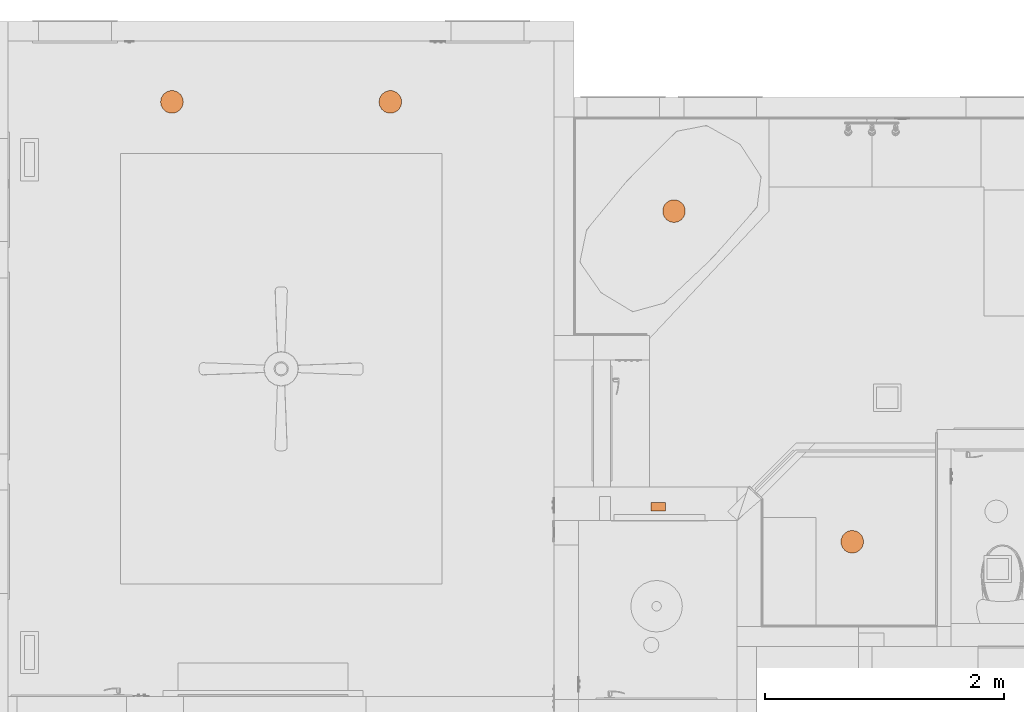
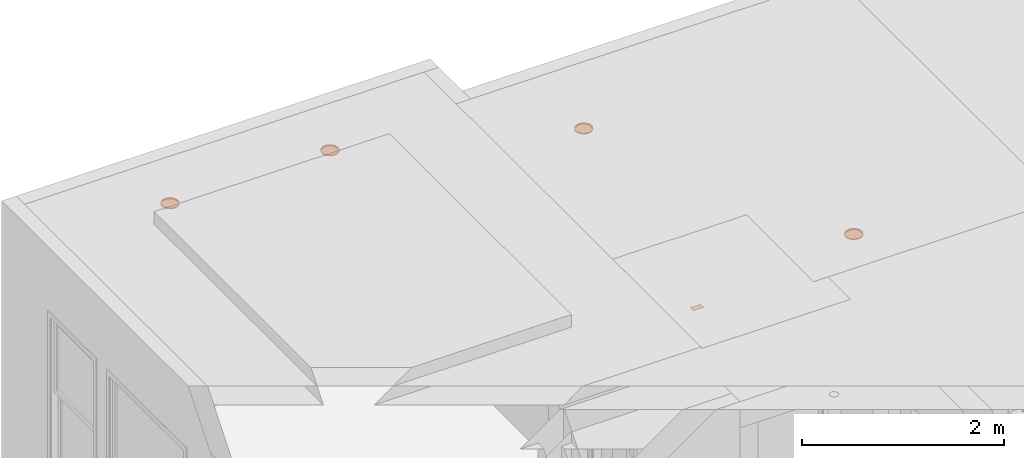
# One storey, part 74 of 103: 5 proxies.
"""IFC2X3 building model written with IfcOpenShell, lengths in inches."""

from ifc_helpers import new_model, entity, si_unit, converted_unit, derived_unit, money_unit, direction, frame, origin_with_axes, place, context, subcontext, project, spatial, open_shell, faceted_brep, surface_model, source, transform, mapped, material, type_object, element, save


model = new_model("IFC2X3")

# Units and contexts
model_context = context("Model", 3, precision=0.00039370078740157, world=origin_with_axes(), true_north=direction((0.0, 1.0)))
plan_context = context("Plan", 3, precision=0.00039370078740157, world=origin_with_axes(), true_north=direction((0.0, 1.0)))
body_context = subcontext(model_context, "Body", "Model", "MODEL_VIEW")
ifc_project = project(units=[converted_unit("LENGTHUNIT", "INCH", entity("IfcPositiveLengthMeasure", 0.0254), si_unit("LENGTHUNIT", "METRE"), dimensions=[1, 0, 0, 0, 0, 0, 0]), converted_unit("AREAUNIT", "SQUARE_FOOT", entity("IfcPositiveLengthMeasure", 0.09290304), si_unit("AREAUNIT", "SQUARE_METRE"), dimensions=[2, 0, 0, 0, 0, 0, 0]), si_unit("PLANEANGLEUNIT", "RADIAN"), si_unit("SOLIDANGLEUNIT", "STERADIAN"), money_unit("USD"), converted_unit("TIMEUNIT", "Year", entity("IfcTimeMeasure", 31557600.0), si_unit("TIMEUNIT", "SECOND"), dimensions=[0, 0, 1, 0, 0, 0, 0]), si_unit("MASSUNIT", "GRAM", prefix="KILO"), si_unit("THERMODYNAMICTEMPERATUREUNIT", "DEGREE_CELSIUS"), si_unit("LUMINOUSINTENSITYUNIT", "LUMEN"), si_unit("ENERGYUNIT", "JOULE", prefix="MEGA"), derived_unit("SPECIFICHEATCAPACITYUNIT", [(si_unit("ENERGYUNIT", "JOULE"), 1), (si_unit("MASSUNIT", "GRAM", prefix="KILO"), -1), (si_unit("THERMODYNAMICTEMPERATUREUNIT", "KELVIN"), -1)])], contexts=[model_context, plan_context])

# Site, building, storey
site_placement = place(None, origin_with_axes())
site = spatial("IfcSite", under=ifc_project, at=site_placement, Name="Site", CompositionType="ELEMENT")
building_placement = place(site_placement, origin_with_axes())
building = spatial("IfcBuilding", under=site, at=building_placement, Name="Building", CompositionType="ELEMENT")
storey_placement = place(building_placement, frame((0.0, 0.0, 127.9999999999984), z_axis=(0.0, 0.0, 1.0), x_axis=(1.0, 0.0, 0.0)))
storey = spatial("IfcBuildingStorey", under=building, at=storey_placement, Name="Second Floor", CompositionType="ELEMENT", Elevation=128.0)

# Proxies
building_element_proxy_type_1 = type_object("IfcBuildingElementProxyType", Name="Recessed Spot", PredefinedType="NOTDEFINED")
shared_shape_1 = source(origin_with_axes(), body_context, "Body", "SurfaceModel", [
    faceted_brep([(3.749999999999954, 0.0, -0.4999999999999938), (3.523847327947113, 1.282575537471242, -0.4999999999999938), (3.523847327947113, 1.282575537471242, 0.0), (3.749999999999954, 0.0, 0.0), (3.523847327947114, -1.282575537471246, -0.4999999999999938), (2.872666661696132, -2.410453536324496, -0.4999999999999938), (1.874999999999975, -3.247595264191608, -0.4999999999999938), (0.6511806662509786, -3.693029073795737, -0.4999999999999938), (-0.6511806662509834, -3.693029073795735, -0.4999999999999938), (-1.87499999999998, -3.247595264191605, -0.4999999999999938), (-2.872666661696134, -2.410453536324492, -0.4999999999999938), (-3.523847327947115, -1.282575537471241, -0.4999999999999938), (-3.749999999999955, 0.0, -0.4999999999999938), (-3.523847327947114, 1.282575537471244, -0.4999999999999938), (-2.872666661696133, 2.410453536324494, -0.4999999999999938), (-1.874999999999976, 3.247595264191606, -0.4999999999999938), (-0.6511806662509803, 3.693029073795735, -0.4999999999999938), (0.6511806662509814, 3.693029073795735, -0.4999999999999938), (1.874999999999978, 3.247595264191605, -0.4999999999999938), (2.872666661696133, 2.410453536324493, -0.4999999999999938), (3.24999999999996, 0.0, -0.4999999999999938), (3.054001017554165, 1.11156546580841, -0.4999999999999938), (2.489644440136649, 2.089059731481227, -0.4999999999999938), (1.62499999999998, 2.814582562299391, -0.4999999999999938), (0.5643565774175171, 3.200625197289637, -0.4999999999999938), (-0.5643565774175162, 3.200625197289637, -0.4999999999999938), (-1.62499999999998, 2.814582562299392, -0.4999999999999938), (-2.489644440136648, 2.089059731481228, -0.4999999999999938), (-3.054001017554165, 1.111565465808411, -0.4999999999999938), (-3.24999999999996, 0.0, -0.4999999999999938), (-3.054001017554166, -1.111565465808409, -0.4999999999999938), (-2.48964444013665, -2.089059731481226, -0.4999999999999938), (-1.624999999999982, -2.814582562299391, -0.4999999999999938), (-0.5643565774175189, -3.200625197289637, -0.4999999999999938), (0.5643565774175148, -3.200625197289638, -0.4999999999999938), (1.624999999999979, -2.814582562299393, -0.4999999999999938), (2.489644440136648, -2.08905973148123, -0.4999999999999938), (3.054001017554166, -1.111565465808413, -0.4999999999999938), (2.872666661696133, 2.410453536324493, 0.0), (1.874999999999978, 3.247595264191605, 0.0), (0.6511806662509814, 3.693029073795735, 0.0), (-0.6511806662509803, 3.693029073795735, 0.0), (-1.874999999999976, 3.247595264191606, 0.0), (-2.872666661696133, 2.410453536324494, 0.0), (-3.523847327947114, 1.282575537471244, 0.0), (-3.749999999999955, 0.0, 0.0), (-3.523847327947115, -1.282575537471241, 0.0), (-2.872666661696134, -2.410453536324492, 0.0), (-1.87499999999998, -3.247595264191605, 0.0), (-0.6511806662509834, -3.693029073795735, 0.0), (0.6511806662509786, -3.693029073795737, 0.0), (1.874999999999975, -3.247595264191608, 0.0), (2.872666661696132, -2.410453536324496, 0.0), (3.523847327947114, -1.282575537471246, 0.0), (3.24999999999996, 0.0, 0.0), (3.054001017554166, -1.111565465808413, 0.0), (2.489644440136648, -2.08905973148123, 0.0), (1.624999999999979, -2.814582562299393, 0.0), (0.5643565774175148, -3.200625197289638, 0.0), (-0.5643565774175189, -3.200625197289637, 0.0), (-1.624999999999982, -2.814582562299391, 0.0), (-2.48964444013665, -2.089059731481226, 0.0), (-3.054001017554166, -1.111565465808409, 0.0), (-3.24999999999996, 0.0, 0.0), (-3.054001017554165, 1.111565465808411, 0.0), (-2.489644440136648, 2.089059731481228, 0.0), (-1.62499999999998, 2.814582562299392, 0.0), (-0.5643565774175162, 3.200625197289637, 0.0), (0.5643565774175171, 3.200625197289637, 0.0), (1.62499999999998, 2.814582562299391, 0.0), (2.489644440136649, 2.089059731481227, 0.0), (3.054001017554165, 1.11156546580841, 0.0)], [[[0, 1, 2, 3]], [[0, 4, 5, 6, 7, 8, 9, 10, 11, 12, 13, 14, 15, 16, 17, 18, 19, 1], [20, 21, 22, 23, 24, 25, 26, 27, 28, 29, 30, 31, 32, 33, 34, 35, 36, 37]], [[1, 19, 38, 2]], [[3, 2, 38, 39, 40, 41, 42, 43, 44, 45, 46, 47, 48, 49, 50, 51, 52, 53], [54, 55, 56, 57, 58, 59, 60, 61, 62, 63, 64, 65, 66, 67, 68, 69, 70, 71]], [[4, 0, 3, 53]], [[5, 4, 53, 52]], [[6, 5, 52, 51]], [[7, 6, 51, 50]], [[8, 7, 50, 49]], [[9, 8, 49, 48]], [[10, 9, 48, 47]], [[11, 10, 47, 46]], [[12, 11, 46, 45]], [[13, 12, 45, 44]], [[14, 13, 44, 43]], [[15, 14, 43, 42]], [[16, 15, 42, 41]], [[17, 16, 41, 40]], [[18, 17, 40, 39]], [[19, 18, 39, 38]], [[21, 20, 54, 71]], [[22, 21, 71, 70]], [[23, 22, 70, 69]], [[24, 23, 69, 68]], [[25, 24, 68, 67]], [[26, 25, 67, 66]], [[27, 26, 66, 65]], [[28, 27, 65, 64]], [[29, 28, 64, 63]], [[30, 29, 63, 62]], [[31, 30, 62, 61]], [[32, 31, 61, 60]], [[33, 32, 60, 59]], [[34, 33, 59, 58]], [[35, 34, 58, 57]], [[36, 35, 57, 56]], [[37, 36, 56, 55]], [[20, 37, 55, 54]]]),
    surface_model("IfcShellBasedSurfaceModel", [(3.24999999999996, 0.0, -0.4460629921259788), (3.054001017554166, -1.111565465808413, -0.4460629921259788), (2.489644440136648, -2.08905973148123, -0.4460629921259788), (1.624999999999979, -2.814582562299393, -0.4460629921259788), (0.5643565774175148, -3.200625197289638, -0.4460629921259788), (-0.5643565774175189, -3.200625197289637, -0.4460629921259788), (-1.624999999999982, -2.814582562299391, -0.4460629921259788), (-2.48964444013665, -2.089059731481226, -0.4460629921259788), (-3.054001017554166, -1.111565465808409, -0.4460629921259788), (-3.24999999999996, 0.0, -0.4460629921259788), (-3.054001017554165, 1.111565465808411, -0.4460629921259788), (-2.489644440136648, 2.089059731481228, -0.4460629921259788), (-1.62499999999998, 2.814582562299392, -0.4460629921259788), (-0.5643565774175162, 3.200625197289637, -0.4460629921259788), (0.5643565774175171, 3.200625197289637, -0.4460629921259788), (1.62499999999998, 2.814582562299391, -0.4460629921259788), (2.489644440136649, 2.089059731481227, -0.4460629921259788), (3.054001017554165, 1.11156546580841, -0.4460629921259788)], [open_shell([[[0, 1, 2, 3, 4, 5, 6, 7, 8, 9, 10, 11, 12, 13, 14, 15, 16, 17]]])]),
])
for number, where, z_axis, x_axis, name in (
    (1, (-36.25001503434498, 539.00122114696, 119.4999999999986), (0.0, 0.0, 1.0), (-9.406550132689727e-08, 0.9999999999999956, 0.0), "L-03"),
    (2, (22.49999521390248, 430.0009030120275, 114.7499999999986), (0.0, 0.0, 1.0), (-9.406550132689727e-08, 0.9999999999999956, 0.0), "L-03"),
):
    element("IfcBuildingElementProxy", number, at=place(storey_placement, frame(where, z_axis=z_axis, x_axis=x_axis)), inside=storey, type_object=building_element_proxy_type_1, Name=name, context=body_context, shape_type="MappedRepresentation", body=[
        mapped(shared_shape_1, transform((0.0, 0.0, 0.0))),
    ])
ifc_material = material(Name="Color - White")
building_element_proxy_type_2 = type_object("IfcBuildingElementProxyType", Name="Color - White", PredefinedType="NOTDEFINED")
shared_shape_2 = source(origin_with_axes(), body_context, "Body", "Brep", [
    faceted_brep([(39.622047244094, -412.3783872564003, 95.86220472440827), (39.622047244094, -412.3783872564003, 95.9999999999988), (39.622047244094, -407.6539778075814, 95.9999999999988), (39.622047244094, -407.6539778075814, 95.86220472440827), (42.37795275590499, -412.3783872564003, 95.86220472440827), (42.37795275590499, -412.3783872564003, 95.9999999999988), (40.72440944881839, -410.4886234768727, 95.9999999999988), (40.60629921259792, -410.4886234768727, 95.9999999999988), (40.60629921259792, -409.5437415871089, 95.9999999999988), (40.72440944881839, -409.5437415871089, 95.9999999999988), (42.37795275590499, -407.6539778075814, 95.9999999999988), (42.37795275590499, -407.6539778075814, 95.86220472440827), (40.60629921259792, -409.5437415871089, 95.86220472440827), (40.60629921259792, -410.4886234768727, 95.86220472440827), (41.39370078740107, -410.4886234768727, 95.86220472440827), (41.39370078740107, -409.5437415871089, 95.86220472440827), (41.2755905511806, -410.4886234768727, 95.9999999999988), (40.9999999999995, -410.0161825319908, 95.9999999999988), (41.39370078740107, -410.4886234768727, 95.9999999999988), (41.39370078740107, -409.5437415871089, 95.9999999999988), (41.2755905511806, -409.5437415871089, 95.9999999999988), (40.60629921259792, -409.5437415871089, 95.81791338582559), (40.60629921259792, -410.4886234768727, 95.81791338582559), (41.39370078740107, -410.4886234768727, 95.81791338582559), (41.39370078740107, -409.5437415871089, 95.81791338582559)], [[[0, 1, 2, 3]], [[1, 0, 4, 5]], [[1, 6, 7, 8, 9, 2]], [[3, 2, 10, 11]], [[0, 3, 11, 4], [12, 13, 14, 15]], [[5, 4, 11, 10]], [[6, 1, 5, 16]], [[17, 7, 6, 16, 18]], [[8, 7, 17]], [[8, 17, 19, 20, 9]], [[2, 9, 20, 10]], [[21, 22, 13, 12]], [[13, 22, 23, 14]], [[14, 23, 24, 15]], [[21, 12, 15, 24]], [[19, 18, 16, 5, 10, 20]], [[17, 18, 19]], [[22, 21, 24, 23]]]),
])
proxy_placement = place(storey_placement, frame((-451.5133530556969, 400.5029527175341, -1.0), z_axis=(0.0, 0.0, 1.0), x_axis=(0.0, 1.0, 0.0)))
element("IfcBuildingElementProxy", 3, at=proxy_placement, inside=storey, type_object=building_element_proxy_type_2, material=ifc_material, Name="OBJ-03", context=body_context, shape_type="MappedRepresentation", body=[
    mapped(shared_shape_2, transform((0.0, 0.0, 0.0))),
])
shared_shape_3 = source(origin_with_axes(), body_context, "Body", "SurfaceModel", [
    faceted_brep([(3.749999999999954, 0.0, -0.4999999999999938), (3.523847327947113, 1.282575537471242, -0.4999999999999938), (3.523847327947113, 1.282575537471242, 0.0), (3.749999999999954, 0.0, 0.0), (3.523847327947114, -1.282575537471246, -0.4999999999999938), (2.872666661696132, -2.410453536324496, -0.4999999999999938), (1.874999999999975, -3.247595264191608, -0.4999999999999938), (0.6511806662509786, -3.693029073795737, -0.4999999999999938), (-0.6511806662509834, -3.693029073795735, -0.4999999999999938), (-1.87499999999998, -3.247595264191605, -0.4999999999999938), (-2.872666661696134, -2.410453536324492, -0.4999999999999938), (-3.523847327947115, -1.282575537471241, -0.4999999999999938), (-3.749999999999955, 0.0, -0.4999999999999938), (-3.523847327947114, 1.282575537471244, -0.4999999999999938), (-2.872666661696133, 2.410453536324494, -0.4999999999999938), (-1.874999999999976, 3.247595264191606, -0.4999999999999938), (-0.6511806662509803, 3.693029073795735, -0.4999999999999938), (0.6511806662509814, 3.693029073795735, -0.4999999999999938), (1.874999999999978, 3.247595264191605, -0.4999999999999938), (2.872666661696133, 2.410453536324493, -0.4999999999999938), (3.24999999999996, 0.0, -0.4999999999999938), (3.054001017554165, 1.11156546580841, -0.4999999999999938), (2.489644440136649, 2.089059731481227, -0.4999999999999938), (1.62499999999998, 2.814582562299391, -0.4999999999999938), (0.5643565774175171, 3.200625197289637, -0.4999999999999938), (-0.5643565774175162, 3.200625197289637, -0.4999999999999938), (-1.62499999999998, 2.814582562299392, -0.4999999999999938), (-2.489644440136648, 2.089059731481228, -0.4999999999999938), (-3.054001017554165, 1.111565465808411, -0.4999999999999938), (-3.24999999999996, 0.0, -0.4999999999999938), (-3.054001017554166, -1.111565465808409, -0.4999999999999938), (-2.48964444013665, -2.089059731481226, -0.4999999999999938), (-1.624999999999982, -2.814582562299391, -0.4999999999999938), (-0.5643565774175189, -3.200625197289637, -0.4999999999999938), (0.5643565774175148, -3.200625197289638, -0.4999999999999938), (1.624999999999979, -2.814582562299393, -0.4999999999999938), (2.489644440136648, -2.08905973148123, -0.4999999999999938), (3.054001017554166, -1.111565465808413, -0.4999999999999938), (2.872666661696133, 2.410453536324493, 0.0), (1.874999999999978, 3.247595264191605, 0.0), (0.6511806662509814, 3.693029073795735, 0.0), (-0.6511806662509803, 3.693029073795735, 0.0), (-1.874999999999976, 3.247595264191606, 0.0), (-2.872666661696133, 2.410453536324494, 0.0), (-3.523847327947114, 1.282575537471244, 0.0), (-3.749999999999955, 0.0, 0.0), (-3.523847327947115, -1.282575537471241, 0.0), (-2.872666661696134, -2.410453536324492, 0.0), (-1.87499999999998, -3.247595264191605, 0.0), (-0.6511806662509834, -3.693029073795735, 0.0), (0.6511806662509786, -3.693029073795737, 0.0), (1.874999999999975, -3.247595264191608, 0.0), (2.872666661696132, -2.410453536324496, 0.0), (3.523847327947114, -1.282575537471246, 0.0), (3.24999999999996, 0.0, 0.0), (3.054001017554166, -1.111565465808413, 0.0), (2.489644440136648, -2.08905973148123, 0.0), (1.624999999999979, -2.814582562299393, 0.0), (0.5643565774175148, -3.200625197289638, 0.0), (-0.5643565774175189, -3.200625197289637, 0.0), (-1.624999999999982, -2.814582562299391, 0.0), (-2.48964444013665, -2.089059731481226, 0.0), (-3.054001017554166, -1.111565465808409, 0.0), (-3.24999999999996, 0.0, 0.0), (-3.054001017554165, 1.111565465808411, 0.0), (-2.489644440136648, 2.089059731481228, 0.0), (-1.62499999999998, 2.814582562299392, 0.0), (-0.5643565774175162, 3.200625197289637, 0.0), (0.5643565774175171, 3.200625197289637, 0.0), (1.62499999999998, 2.814582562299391, 0.0), (2.489644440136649, 2.089059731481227, 0.0), (3.054001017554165, 1.11156546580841, 0.0)], [[[0, 1, 2, 3]], [[0, 4, 5, 6, 7, 8, 9, 10, 11, 12, 13, 14, 15, 16, 17, 18, 19, 1], [20, 21, 22, 23, 24, 25, 26, 27, 28, 29, 30, 31, 32, 33, 34, 35, 36, 37]], [[1, 19, 38, 2]], [[3, 2, 38, 39, 40, 41, 42, 43, 44, 45, 46, 47, 48, 49, 50, 51, 52, 53], [54, 55, 56, 57, 58, 59, 60, 61, 62, 63, 64, 65, 66, 67, 68, 69, 70, 71]], [[4, 0, 3, 53]], [[5, 4, 53, 52]], [[6, 5, 52, 51]], [[7, 6, 51, 50]], [[8, 7, 50, 49]], [[9, 8, 49, 48]], [[10, 9, 48, 47]], [[11, 10, 47, 46]], [[12, 11, 46, 45]], [[13, 12, 45, 44]], [[14, 13, 44, 43]], [[15, 14, 43, 42]], [[16, 15, 42, 41]], [[17, 16, 41, 40]], [[18, 17, 40, 39]], [[19, 18, 39, 38]], [[21, 20, 54, 71]], [[22, 21, 71, 70]], [[23, 22, 70, 69]], [[24, 23, 69, 68]], [[25, 24, 68, 67]], [[26, 25, 67, 66]], [[27, 26, 66, 65]], [[28, 27, 65, 64]], [[29, 28, 64, 63]], [[30, 29, 63, 62]], [[31, 30, 62, 61]], [[32, 31, 61, 60]], [[33, 32, 60, 59]], [[34, 33, 59, 58]], [[35, 34, 58, 57]], [[36, 35, 57, 56]], [[37, 36, 56, 55]], [[20, 37, 55, 54]]]),
    surface_model("IfcShellBasedSurfaceModel", [(3.24999999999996, 0.0, -0.4460629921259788), (3.054001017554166, -1.111565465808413, -0.4460629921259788), (2.489644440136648, -2.08905973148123, -0.4460629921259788), (1.624999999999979, -2.814582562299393, -0.4460629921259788), (0.5643565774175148, -3.200625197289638, -0.4460629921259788), (-0.5643565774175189, -3.200625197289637, -0.4460629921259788), (-1.624999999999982, -2.814582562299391, -0.4460629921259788), (-2.48964444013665, -2.089059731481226, -0.4460629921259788), (-3.054001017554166, -1.111565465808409, -0.4460629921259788), (-3.24999999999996, 0.0, -0.4460629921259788), (-3.054001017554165, 1.111565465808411, -0.4460629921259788), (-2.489644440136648, 2.089059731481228, -0.4460629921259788), (-1.62499999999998, 2.814582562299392, -0.4460629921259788), (-0.5643565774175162, 3.200625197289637, -0.4460629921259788), (0.5643565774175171, 3.200625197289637, -0.4460629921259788), (1.62499999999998, 2.814582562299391, -0.4460629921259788), (2.489644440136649, 2.089059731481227, -0.4460629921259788), (3.054001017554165, 1.11156546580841, -0.4460629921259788)], [open_shell([[[0, 1, 2, 3, 4, 5, 6, 7, 8, 9, 10, 11, 12, 13, 14, 15, 16, 17]]])]),
])
for number, where, z_axis, x_axis, name in (
    (4, (-201.7499999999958, 574.9999999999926, 119.9999999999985), (0.0, 0.0, 1.0), (0.9999999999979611, 2.01938114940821e-06, 0.0), "L-03"),
    (5, (-129.7499999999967, 574.9999999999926, 119.9999999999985), (0.0, 0.0, 1.0), (0.9999999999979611, 2.01938114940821e-06, 0.0), "L-03"),
):
    element("IfcBuildingElementProxy", number, at=place(storey_placement, frame(where, z_axis=z_axis, x_axis=x_axis)), inside=storey, type_object=building_element_proxy_type_1, Name=name, context=body_context, shape_type="MappedRepresentation", body=[
        mapped(shared_shape_3, transform((0.0, 0.0, 0.0))),
    ])

save(model, "model.ifc")
